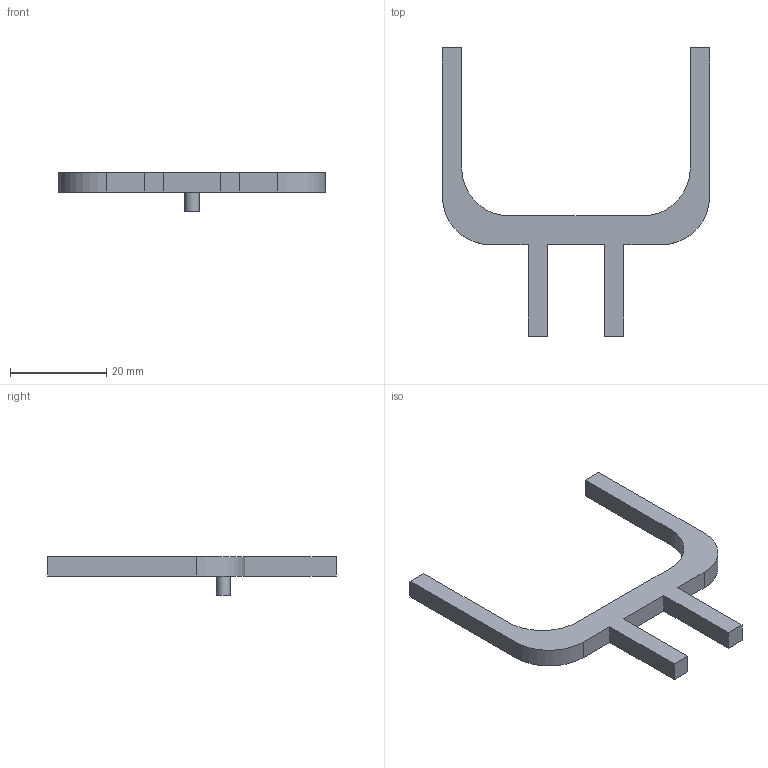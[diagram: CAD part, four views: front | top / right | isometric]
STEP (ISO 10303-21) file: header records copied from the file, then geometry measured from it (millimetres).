
FILE_DESCRIPTION(/* description */ ('STEP AP242','CAx-IF Rec.Pracs.---Representation and Presentation of Product Manufacturing Information (PMI)---4.0---2014-10-13','CAx-IF Rec.Pracs.---3D Tessellated Geometry---0.4---2014-09-14','2;1'),/* implementation_level */ '2;1');
FILE_NAME(/* name */ 'Part Studio 1 - Segment A Follower',/* time_stamp */ '2025-09-04T05:47:28Z',/* author */ (''),/* organization */ (''),/* preprocessor_version */ 'ST-DEVELOPER v20',/* originating_system */ 'ONSHAPE BY PTC INC, 1.203',/* authorisation */ ' ');
FILE_SCHEMA (('AP242_MANAGED_MODEL_BASED_3D_ENGINEERING_MIM_LF { 1 0 10303 442 1 1 4 }'));
Length unit declared in the file: metre
Products named in the file (1): Segment A Follower
Bounding box: 55.6 x 60 x 8 mm (x, y, z)
Volume: 3090.7 mm3; surface area: 2857 mm2
Topology: 1 solids, 1 shells, 24 faces, 65 edges, 43 vertices
Faces by surface type: plane 19, cylinder 5
Full cylindrical faces by diameter (mm): 3 x1
Entity records: 759 total; most frequent: CARTESIAN_POINT 130, ORIENTED_EDGE 126, DIRECTION 123, EDGE_CURVE 63, LINE 53, VECTOR 53, VERTEX_POINT 42, AXIS2_PLACEMENT_3D 35
